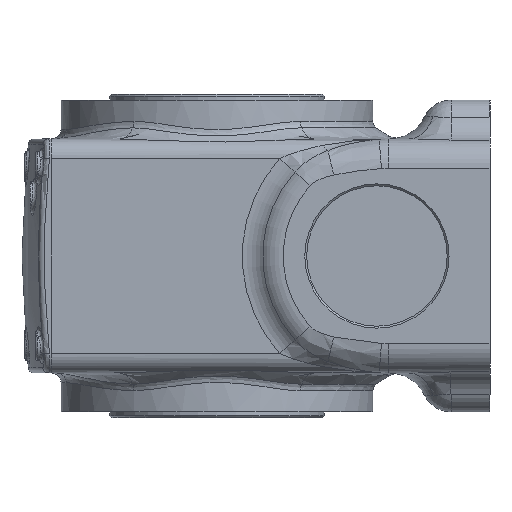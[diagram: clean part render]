
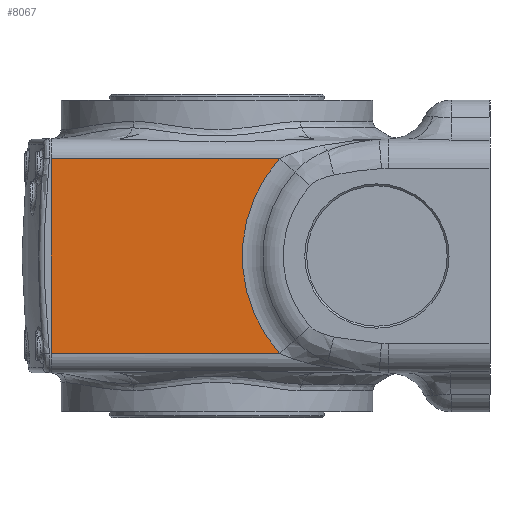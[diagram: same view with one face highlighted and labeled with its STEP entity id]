
A CAD part, left-side view. The second image highlights one B-rep face of the part: STEP entity #8067.
In plain terms, the highlighted planar face has unit normal (-1, 0, 0).
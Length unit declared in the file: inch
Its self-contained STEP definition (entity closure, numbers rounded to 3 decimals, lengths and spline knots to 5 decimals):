
#1441=FACE_OUTER_BOUND('',#2163,.T.);
#2163=EDGE_LOOP('',(#6759,#6760,#6761,#6762));
#2420=LINE('',#11652,#2620);
#2519=LINE('',#21148,#2719);
#2520=LINE('',#21151,#2720);
#2620=VECTOR('',#9509,3.93701);
#2719=VECTOR('',#10880,4.61017);
#2720=VECTOR('',#10885,4.61017);
#3165=CIRCLE('',#8940,2.95276);
#3372=VERTEX_POINT('',#11648);
#3374=VERTEX_POINT('',#11651);
#3867=VERTEX_POINT('',#21049);
#3868=VERTEX_POINT('',#21057);
#4124=EDGE_CURVE('',#3372,#3374,#2420,.T.);
#4860=EDGE_CURVE('',#3868,#3867,#3165,.T.);
#4865=EDGE_CURVE('',#3374,#3868,#2519,.T.);
#4866=EDGE_CURVE('',#3867,#3372,#2520,.T.);
#6759=ORIENTED_EDGE('',*,*,#4860,.F.);
#6760=ORIENTED_EDGE('',*,*,#4865,.F.);
#6761=ORIENTED_EDGE('',*,*,#4124,.F.);
#6762=ORIENTED_EDGE('',*,*,#4866,.F.);
#7063=PLANE('',#8946);
#8067=ADVANCED_FACE('',(#1441),#7063,.F.);
#8940=AXIS2_PLACEMENT_3D('',#21059,#10872,#10873);
#8946=AXIS2_PLACEMENT_3D('',#21152,#10886,#10887);
#9509=DIRECTION('',(0.,0.,1.));
#10872=DIRECTION('center_axis',(-1.,0.,0.));
#10873=DIRECTION('ref_axis',(0.,1.,0.));
#10880=DIRECTION('',(0.,-1.,0.));
#10885=DIRECTION('',(0.,1.,0.));
#10886=DIRECTION('center_axis',(1.,0.,0.));
#10887=DIRECTION('ref_axis',(0.,0.,1.));
#11648=CARTESIAN_POINT('',(-4.80633,4.61237,-1.9685));
#11651=CARTESIAN_POINT('',(-4.80633,4.61237,1.9685));
#11652=CARTESIAN_POINT('',(-4.80633,4.61237,-1.1811));
#21049=CARTESIAN_POINT('',(-4.80633,0.0022,-1.9685));
#21057=CARTESIAN_POINT('',(-4.80633,0.0022,1.9685));
#21059=CARTESIAN_POINT('Origin',(-4.80633,-2.19866,0.));
#21148=CARTESIAN_POINT('',(-4.80633,2.3978,1.9685));
#21151=CARTESIAN_POINT('',(-4.80633,2.3978,-1.9685));
#21152=CARTESIAN_POINT('Origin',(-4.80633,4.61237,-2.3622));
